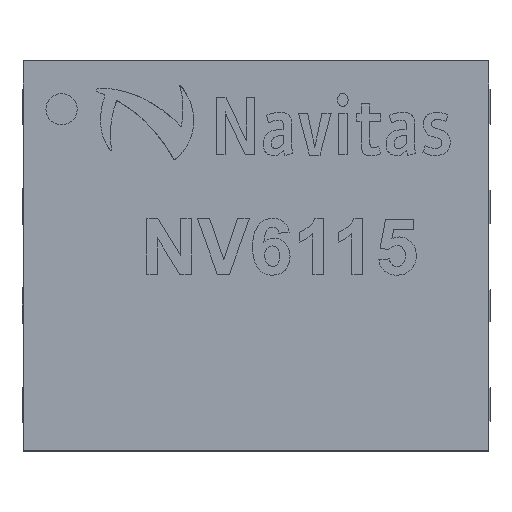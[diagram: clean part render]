
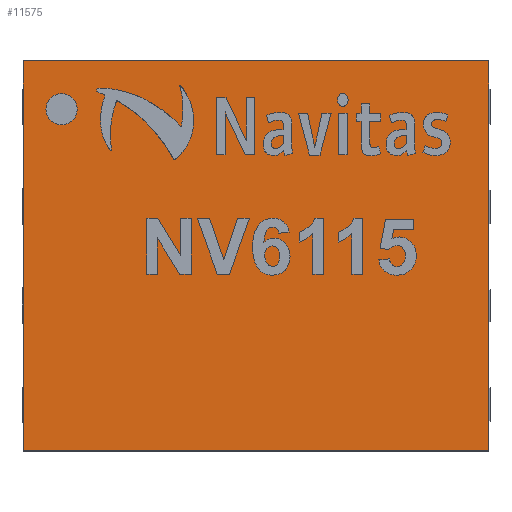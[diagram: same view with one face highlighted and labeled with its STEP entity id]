
A CAD part, top view. The second image highlights one B-rep face of the part: STEP entity #11575.
In plain terms, the highlighted planar face has unit normal (0, 0, 1).
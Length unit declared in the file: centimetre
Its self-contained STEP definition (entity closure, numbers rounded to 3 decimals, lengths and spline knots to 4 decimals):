
#1517=LINE($,#13689,#2385);
#1518=LINE($,#13691,#2386);
#1519=LINE($,#13693,#2387);
#1520=LINE($,#13694,#2388);
#2385=VECTOR($,#12472,0.5);
#2386=VECTOR($,#12473,0.5969);
#2387=VECTOR($,#12474,0.5);
#2388=VECTOR($,#12475,0.5969);
#3251=PLANE($,#12286);
#3420=FACE_BOUND($,#4095,.T.);
#3421=FACE_BOUND($,#4096,.T.);
#4095=EDGE_LOOP($,(#7866));
#4096=EDGE_LOOP($,(#7867,#7868,#7869,#7870));
#4763=CIRCLE($,#12282,0.02);
#4765=VERTEX_POINT($,#13672);
#4771=VERTEX_POINT($,#13687);
#4772=VERTEX_POINT($,#13688);
#4773=VERTEX_POINT($,#13690);
#4774=VERTEX_POINT($,#13692);
#6003=EDGE_CURVE($,#4765,#4765,#4763,.T.);
#6009=EDGE_CURVE($,#4771,#4772,#1517,.T.);
#6010=EDGE_CURVE($,#4772,#4773,#1518,.T.);
#6011=EDGE_CURVE($,#4773,#4774,#1519,.T.);
#6012=EDGE_CURVE($,#4774,#4771,#1520,.T.);
#7866=ORIENTED_EDGE($,*,*,#6003,.T.);
#7867=ORIENTED_EDGE($,*,*,#6009,.T.);
#7868=ORIENTED_EDGE($,*,*,#6010,.T.);
#7869=ORIENTED_EDGE($,*,*,#6011,.T.);
#7870=ORIENTED_EDGE($,*,*,#6012,.T.);
#11575=ADVANCED_FACE($,(#3420,#3421),#3251,.F.);
#12282=AXIS2_PLACEMENT_3D($,#13673,#12458,#12459);
#12286=AXIS2_PLACEMENT_3D($,#13686,#12470,#12471);
#12458=DIRECTION('center_axis',(0.,0.,-1.));
#12459=DIRECTION('ref_axis',(1.,0.,0.));
#12470=DIRECTION('center_axis',(0.,0.,-1.));
#12471=DIRECTION('ref_axis',(-1.,0.,0.));
#12472=DIRECTION($,(0.,1.,0.));
#12473=DIRECTION($,(-1.,0.,0.));
#12474=DIRECTION($,(0.,-1.,0.));
#12475=DIRECTION($,(1.,0.,0.));
#13672=CARTESIAN_POINT('',(-0.5702,0.4441,0.0899));
#13673=CARTESIAN_POINT('Origin',(-0.5502,0.4441,0.0899));
#13686=CARTESIAN_POINT('Origin',(-0.301,0.2561,0.0899));
#13687=CARTESIAN_POINT('',(-0.0026,0.0061,0.0899));
#13688=CARTESIAN_POINT('',(-0.0026,0.5061,0.0899));
#13689=CARTESIAN_POINT($,(-0.0026,0.2561,0.0899));
#13690=CARTESIAN_POINT('',(-0.5995,0.5061,0.0899));
#13691=CARTESIAN_POINT($,(-0.301,0.5061,0.0899));
#13692=CARTESIAN_POINT('',(-0.5995,0.0061,0.0899));
#13693=CARTESIAN_POINT($,(-0.5995,0.2561,0.0899));
#13694=CARTESIAN_POINT($,(-0.301,0.0061,0.0899));
